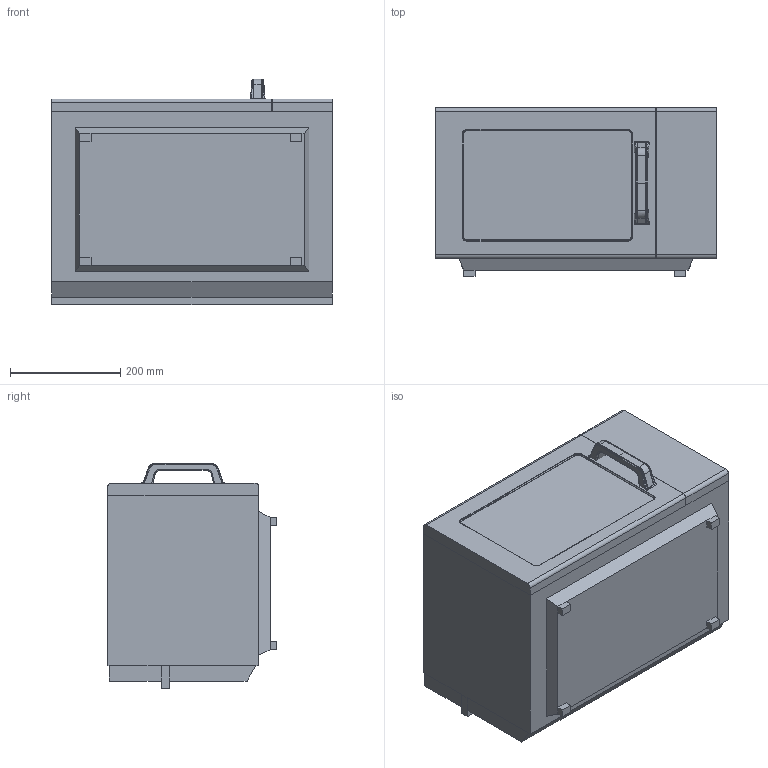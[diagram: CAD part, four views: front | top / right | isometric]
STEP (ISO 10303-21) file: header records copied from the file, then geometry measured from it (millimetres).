
FILE_DESCRIPTION (( 'STEP AP203' ), '1' );
FILE_NAME ('NE-1027_1037.STEP', '2018-08-21T01:57:34', ( '' ), ( '' ), 'SwSTEP 2.0', 'SolidWorks 2013', '' );
FILE_SCHEMA (( 'CONFIG_CONTROL_DESIGN' ));
Length unit declared in the file: millimetre
Products named in the file (1): NE-1027_1037
Bounding box: 510 x 306 x 410 mm (x, y, z)
Volume: 52246960.9 mm3; surface area: 910432.3 mm2
Topology: 3 solids, 3 shells, 401 faces, 1090 edges, 695 vertices
Faces by surface type: plane 223, cylinder 128, bspline 34, cone 8, torus 8
Entity records: 15884 total; most frequent: CARTESIAN_POINT 6353, ORIENTED_EDGE 2180, DIRECTION 1641, EDGE_CURVE 1090, VECTOR 697, LINE 697, VERTEX_POINT 695, AXIS2_PLACEMENT_3D 472
